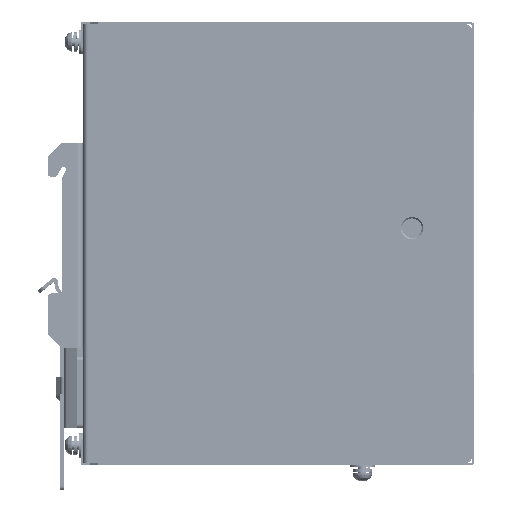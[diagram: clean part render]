
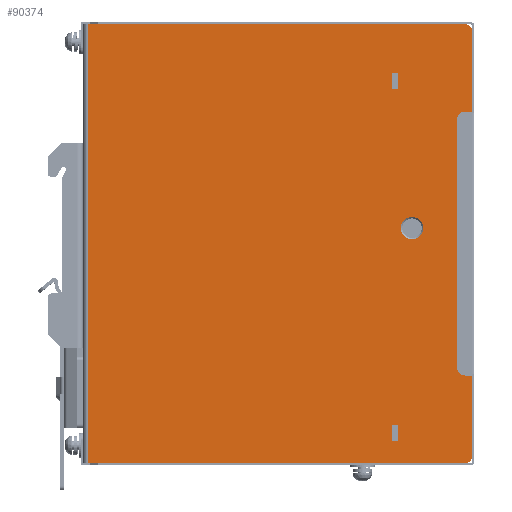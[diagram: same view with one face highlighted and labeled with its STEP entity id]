
A CAD part, top view. The second image highlights one B-rep face of the part: STEP entity #90374.
In plain terms, the highlighted planar face has unit normal (0, 0, 1) as drawn and (0, 0, -1) by its records, which use the part's own axes.
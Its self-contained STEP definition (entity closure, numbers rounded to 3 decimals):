
#90188=CARTESIAN_POINT('',(62.,62.,0.));
#90189=DIRECTION('',(1.,0.,0.));
#90190=DIRECTION('',(0.,0.,1.));
#90191=AXIS2_PLACEMENT_3D('',#90188,#90190,#90189);
#90192=PLANE('',#90191);
#90193=CARTESIAN_POINT('',(110.,122.,0.));
#90194=VERTEX_POINT('',#90193);
#90195=CARTESIAN_POINT('',(108.,124.,0.));
#90196=VERTEX_POINT('',#90195);
#90197=CARTESIAN_POINT('',(108.,122.,0.));
#90198=DIRECTION('',(1.,0.,0.));
#90199=DIRECTION('',(0.,0.,1.));
#90200=AXIS2_PLACEMENT_3D('',#90197,#90199,#90198);
#90201=CIRCLE('',#90200,2.);
#90202=EDGE_CURVE('',#90194,#90196,#90201,.T.);
#90203=ORIENTED_EDGE('E34',*,*,#90202,.T.);
#90204=CARTESIAN_POINT('',(1.5,124.,0.));
#90205=VERTEX_POINT('',#90204);
#90206=CARTESIAN_POINT('',(108.,124.,0.));
#90207=DIRECTION('',(-1.,0.,0.));
#90208=VECTOR('',#90207,106.5);
#90209=LINE('',#90206,#90208);
#90210=EDGE_CURVE('',#90196,#90205,#90209,.T.);
#90211=ORIENTED_EDGE('E3',*,*,#90210,.T.);
#90212=CARTESIAN_POINT('',(1.5,0.,0.));
#90213=VERTEX_POINT('',#90212);
#90214=CARTESIAN_POINT('',(1.5,124.,0.));
#90215=DIRECTION('',(0.,-1.,0.));
#90216=VECTOR('',#90215,124.);
#90217=LINE('',#90214,#90216);
#90218=EDGE_CURVE('',#90205,#90213,#90217,.T.);
#90219=ORIENTED_EDGE('E14',*,*,#90218,.T.);
#90220=CARTESIAN_POINT('',(108.,0.,0.));
#90221=VERTEX_POINT('',#90220);
#90222=CARTESIAN_POINT('',(1.5,0.,0.));
#90223=DIRECTION('',(1.,0.,0.));
#90224=VECTOR('',#90223,106.5);
#90225=LINE('',#90222,#90224);
#90226=EDGE_CURVE('',#90213,#90221,#90225,.T.);
#90227=ORIENTED_EDGE('E1',*,*,#90226,.T.);
#90228=CARTESIAN_POINT('',(110.,2.,0.));
#90229=VERTEX_POINT('',#90228);
#90230=CARTESIAN_POINT('',(108.,2.,0.));
#90231=DIRECTION('',(0.,-1.,0.));
#90232=DIRECTION('',(0.,-0.,1.));
#90233=AXIS2_PLACEMENT_3D('',#90230,#90232,#90231);
#90234=CIRCLE('',#90233,2.);
#90235=EDGE_CURVE('',#90221,#90229,#90234,.T.);
#90236=ORIENTED_EDGE('E30',*,*,#90235,.T.);
#90237=CARTESIAN_POINT('',(110.,24.7,0.));
#90238=VERTEX_POINT('',#90237);
#90239=CARTESIAN_POINT('',(110.,2.,0.));
#90240=DIRECTION('',(0.,1.,0.));
#90241=VECTOR('',#90240,22.7);
#90242=LINE('',#90239,#90241);
#90243=EDGE_CURVE('',#90229,#90238,#90242,.T.);
#90244=ORIENTED_EDGE('E2',*,*,#90243,.T.);
#90245=CARTESIAN_POINT('',(108.,24.7,0.));
#90246=VERTEX_POINT('',#90245);
#90247=CARTESIAN_POINT('',(110.,24.7,0.));
#90248=DIRECTION('',(-1.,0.,0.));
#90249=VECTOR('',#90248,2.);
#90250=LINE('',#90247,#90249);
#90251=EDGE_CURVE('',#90238,#90246,#90250,.T.);
#90252=ORIENTED_EDGE('E117',*,*,#90251,.T.);
#90253=CARTESIAN_POINT('',(105.7,27.,0.));
#90254=VERTEX_POINT('',#90253);
#90255=CARTESIAN_POINT('',(108.,27.,0.));
#90256=DIRECTION('',(0.,-1.,0.));
#90257=DIRECTION('',(0.,0.,-1.));
#90258=AXIS2_PLACEMENT_3D('',#90255,#90257,#90256);
#90259=CIRCLE('',#90258,2.3);
#90260=EDGE_CURVE('',#90246,#90254,#90259,.T.);
#90261=ORIENTED_EDGE('E118',*,*,#90260,.T.);
#90262=CARTESIAN_POINT('',(105.7,97.,0.));
#90263=VERTEX_POINT('',#90262);
#90264=CARTESIAN_POINT('',(105.7,27.,0.));
#90265=DIRECTION('',(0.,1.,0.));
#90266=VECTOR('',#90265,70.);
#90267=LINE('',#90264,#90266);
#90268=EDGE_CURVE('',#90254,#90263,#90267,.T.);
#90269=ORIENTED_EDGE('E119',*,*,#90268,.T.);
#90270=CARTESIAN_POINT('',(108.,99.3,0.));
#90271=VERTEX_POINT('',#90270);
#90272=CARTESIAN_POINT('',(108.,97.,0.));
#90273=DIRECTION('',(-1.,0.,0.));
#90274=DIRECTION('',(0.,0.,-1.));
#90275=AXIS2_PLACEMENT_3D('',#90272,#90274,#90273);
#90276=CIRCLE('',#90275,2.3);
#90277=EDGE_CURVE('',#90263,#90271,#90276,.T.);
#90278=ORIENTED_EDGE('E120',*,*,#90277,.T.);
#90279=CARTESIAN_POINT('',(110.,99.3,0.));
#90280=VERTEX_POINT('',#90279);
#90281=CARTESIAN_POINT('',(108.,99.3,0.));
#90282=DIRECTION('',(1.,0.,0.));
#90283=VECTOR('',#90282,2.);
#90284=LINE('',#90281,#90283);
#90285=EDGE_CURVE('',#90271,#90280,#90284,.T.);
#90286=ORIENTED_EDGE('E121',*,*,#90285,.T.);
#90287=CARTESIAN_POINT('',(110.,99.3,0.));
#90288=DIRECTION('',(0.,1.,0.));
#90289=VECTOR('',#90288,22.7);
#90290=LINE('',#90287,#90289);
#90291=EDGE_CURVE('',#90280,#90194,#90290,.T.);
#90292=ORIENTED_EDGE('E147',*,*,#90291,.T.);
#90293=EDGE_LOOP('',(#90203,#90211,#90219,#90227,#90236,#90244,#90252,#90261,#90269,#90278,#90286,#90292));
#90294=FACE_OUTER_BOUND('',#90293,.F.);
#90295=CARTESIAN_POINT('',(96.11,57.65,0.));
#90296=VERTEX_POINT('',#90295);
#90297=CARTESIAN_POINT('',(92.96,57.65,0.));
#90298=DIRECTION('',(1.,-0.,-0.));
#90299=DIRECTION('',(0.,-0.,1.));
#90300=AXIS2_PLACEMENT_3D('',#90297,#90299,#90298);
#90301=CIRCLE('',#90300,3.15);
#90302=EDGE_CURVE('',#90296,#90296,#90301,.T.);
#90303=ORIENTED_EDGE('E96',*,*,#90302,.F.);
#90304=EDGE_LOOP('',(#90303));
#90305=FACE_BOUND('',#90304,.F.);
#90306=CARTESIAN_POINT('',(87.2,18.2,0.));
#90307=VERTEX_POINT('',#90306);
#90308=CARTESIAN_POINT('',(89.,18.2,0.));
#90309=VERTEX_POINT('',#90308);
#90310=CARTESIAN_POINT('',(87.2,18.2,0.));
#90311=DIRECTION('',(1.,0.,0.));
#90312=VECTOR('',#90311,1.8);
#90313=LINE('',#90310,#90312);
#90314=EDGE_CURVE('',#90307,#90309,#90313,.T.);
#90315=ORIENTED_EDGE('E73',*,*,#90314,.T.);
#90316=CARTESIAN_POINT('',(89.,13.8,0.));
#90317=VERTEX_POINT('',#90316);
#90318=CARTESIAN_POINT('',(89.,18.2,0.));
#90319=DIRECTION('',(0.,-1.,0.));
#90320=VECTOR('',#90319,4.4);
#90321=LINE('',#90318,#90320);
#90322=EDGE_CURVE('',#90309,#90317,#90321,.T.);
#90323=ORIENTED_EDGE('E70',*,*,#90322,.T.);
#90324=CARTESIAN_POINT('',(87.2,13.8,0.));
#90325=VERTEX_POINT('',#90324);
#90326=CARTESIAN_POINT('',(89.,13.8,0.));
#90327=DIRECTION('',(-1.,0.,0.));
#90328=VECTOR('',#90327,1.8);
#90329=LINE('',#90326,#90328);
#90330=EDGE_CURVE('',#90317,#90325,#90329,.T.);
#90331=ORIENTED_EDGE('E71',*,*,#90330,.T.);
#90332=CARTESIAN_POINT('',(87.2,13.8,0.));
#90333=DIRECTION('',(0.,1.,0.));
#90334=VECTOR('',#90333,4.4);
#90335=LINE('',#90332,#90334);
#90336=EDGE_CURVE('',#90325,#90307,#90335,.T.);
#90337=ORIENTED_EDGE('E72',*,*,#90336,.T.);
#90338=EDGE_LOOP('',(#90315,#90323,#90331,#90337));
#90339=FACE_BOUND('',#90338,.F.);
#90340=CARTESIAN_POINT('',(87.2,113.3,0.));
#90341=VERTEX_POINT('',#90340);
#90342=CARTESIAN_POINT('',(87.2,117.7,0.));
#90343=VERTEX_POINT('',#90342);
#90344=CARTESIAN_POINT('',(87.2,113.3,0.));
#90345=DIRECTION('',(0.,1.,0.));
#90346=VECTOR('',#90345,4.4);
#90347=LINE('',#90344,#90346);
#90348=EDGE_CURVE('',#90341,#90343,#90347,.T.);
#90349=ORIENTED_EDGE('E80',*,*,#90348,.T.);
#90350=CARTESIAN_POINT('',(89.,117.7,0.));
#90351=VERTEX_POINT('',#90350);
#90352=CARTESIAN_POINT('',(87.2,117.7,0.));
#90353=DIRECTION('',(1.,0.,0.));
#90354=VECTOR('',#90353,1.8);
#90355=LINE('',#90352,#90354);
#90356=EDGE_CURVE('',#90343,#90351,#90355,.T.);
#90357=ORIENTED_EDGE('E81',*,*,#90356,.T.);
#90358=CARTESIAN_POINT('',(89.,113.3,0.));
#90359=VERTEX_POINT('',#90358);
#90360=CARTESIAN_POINT('',(89.,117.7,0.));
#90361=DIRECTION('',(0.,-1.,0.));
#90362=VECTOR('',#90361,4.4);
#90363=LINE('',#90360,#90362);
#90364=EDGE_CURVE('',#90351,#90359,#90363,.T.);
#90365=ORIENTED_EDGE('E78',*,*,#90364,.T.);
#90366=CARTESIAN_POINT('',(89.,113.3,0.));
#90367=DIRECTION('',(-1.,0.,0.));
#90368=VECTOR('',#90367,1.8);
#90369=LINE('',#90366,#90368);
#90370=EDGE_CURVE('',#90359,#90341,#90369,.T.);
#90371=ORIENTED_EDGE('E79',*,*,#90370,.T.);
#90372=EDGE_LOOP('',(#90349,#90357,#90365,#90371));
#90373=FACE_BOUND('',#90372,.F.);
#90374=ADVANCED_FACE('F1',(#90294,#90305,#90339,#90373),#90192,.F.);
